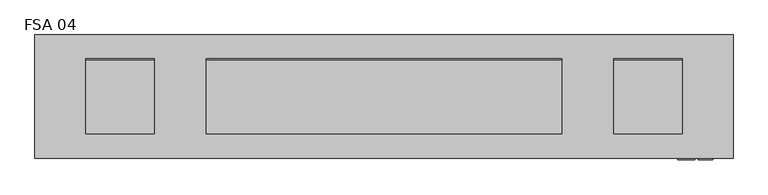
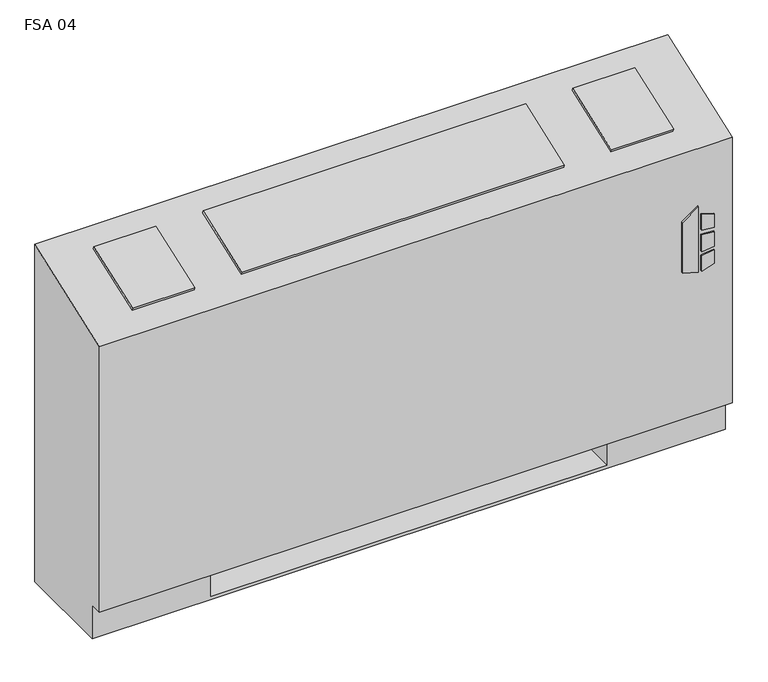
"""IFC4 building model written with IfcOpenShell, lengths in millimetres: proxy geometry, Vertical_Fan_Coil_Unit_-_FSA_-_IEC_-_2-Pipe_TS-FR_LH_2022 : FSA 04."""

from ifc_helpers import new_model, si_unit, point, frame, frame_2d, origin, place, context, project, spatial, polyline, circle_curve, trimmed, segment, composite_curve, outline, extrude, source, transform, mapped, element, save
from ifc_brep_helpers import plane_surface, revolved_surface, advanced_brep


def fsa_04_9fa2f48e(model_context):
    return source(origin(), model_context, "Body", "SolidModel", [
        extrude(outline(polyline([(391.6086829, 696.9868862), (381.6606126, 729.1602728), (523.831537, 729.1602728), (500.8095309, 696.9868862), (391.6086829, 696.9868862)])), frame((0.0, 12.7, 0.0), z_axis=(0.0, 1.0, 0.0), x_axis=(0.0, 0.0, 1.0)), (0.0, 0.0, 1.0), 3.175),
        extrude(outline(polyline([(470.6079683, 735.9186058), (467.4055757, 762.0), (496.6344168, 762.0), (504.6988318, 735.9186058), (470.6079683, 735.9186058)])), frame((0.0, 12.7, 0.0), z_axis=(0.0, 1.0, 0.0), x_axis=(0.0, 0.0, 1.0)), (0.0, 0.0, 1.0), 3.175),
        extrude(outline(polyline([(418.7444414, 762.0), (415.0789404, 735.9186058), (381.6606126, 735.9186058), (390.2948498, 762.0), (418.7444414, 762.0)])), frame((0.0, 12.7, 0.0), z_axis=(0.0, 1.0, 0.0), x_axis=(0.0, 0.0, 1.0)), (0.0, 0.0, 1.0), 3.175),
        extrude(outline(polyline([(458.0596028, 762.0), (460.3414292, 735.9186058), (424.4038806, 735.9186058), (427.1451456, 762.0), (458.0596028, 762.0)])), frame((0.0, 12.7, 0.0), z_axis=(0.0, 1.0, 0.0), x_axis=(0.0, 0.0, 1.0)), (0.0, 0.0, 1.0), 3.175),
        extrude(outline(polyline([(679.45, 223.266), (679.45, 81.534), (558.8, 81.534), (558.8, 223.266), (679.45, 223.266)])), frame((0.0, 0.0, 327.025), z_axis=(0.0, 0.0, 1.0), x_axis=(1.0, 0.0, 0.0)), (0.0, 0.0, 1.0), 260.35),
        extrude(outline(composite_curve([segment(trimmed(circle_curve(frame_2d((-317.5, 130.175)), 9.525), [point((-327.025, 130.175))], [point((-307.975, 130.175))], False, "CARTESIAN"), True, "CONTINUOUS"), segment(trimmed(circle_curve(frame_2d((-317.5, 130.175)), 9.525), [point((-307.975, 130.175))], [point((-327.025, 130.175))], False, "CARTESIAN"), True, "CONTINUOUS")], self_intersect=False)), frame((0.0, 0.0, 101.6), z_axis=(0.0, 0.0, 1.0), x_axis=(1.0, 0.0, 0.0)), (0.0, 0.0, 1.0), 25.4),
        extrude(outline(polyline([(-419.1, 63.5), (-419.1, 196.85), (-254.0, 196.85), (-254.0, 63.5), (-419.1, 63.5)])), frame((0.0, 0.0, 127.0), z_axis=(0.0, 0.0, 1.0), x_axis=(1.0, 0.0, 0.0)), (0.0, 0.0, 1.0), 50.8),
        extrude(outline(polyline([(0.0, -146.0500001), (0.0, 0.0), (127.0, 0.0), (127.0, -146.0500001), (0.0, -146.0500001)])), frame((-401.193, 200.4217127, 714.3418685), z_axis=(0.0, -0.3396444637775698, 0.9405538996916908), x_axis=(1.0, 0.0, 0.0)), (0.0, 0.0, 1.0), 6.35),
        extrude(outline(polyline([(0.0, -146.0500001), (0.0, 0.0), (660.4, 0.0), (660.4, -146.0500001), (0.0, -146.0500001)])), frame((482.6, 63.0538156, 664.7367945), z_axis=(0.0, -0.33964446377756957, 0.9405538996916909), x_axis=(-1.0, 0.0, 0.0)), (0.0, 0.0, 1.0), 6.35),
        extrude(outline(polyline([(0.0, -146.0500001), (0.0, 0.0), (127.0, 0.0), (127.0, -146.0500001), (0.0, -146.0500001)])), frame((705.993, 63.0538156, 664.7367945), z_axis=(0.0, -0.3396444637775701, 0.9405538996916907), x_axis=(-1.0, 0.0, 0.0)), (0.0, 0.0, 1.0), 6.35),
        extrude(outline(composite_curve([segment(trimmed(circle_curve(frame_2d((109.347, 456.819)), 7.9375), [point((109.347, 464.7565))], [point((109.347, 448.8815))], False, "CARTESIAN"), True, "CONTINUOUS"), segment(trimmed(circle_curve(frame_2d((109.347, 456.819)), 7.9375), [point((109.347, 448.8815))], [point((109.347, 464.7565))], False, "CARTESIAN"), True, "CONTINUOUS")], self_intersect=False)), frame((-304.8, 0.0, 0.0), z_axis=(1.0, 0.0, 0.0), x_axis=(0.0, 1.0, 0.0)), (0.0, 0.0, 1.0), 50.8),
        extrude(outline(composite_curve([segment(trimmed(circle_curve(frame_2d((157.4546, 429.4632)), 7.9375), [point((157.4546, 437.4007))], [point((157.4546, 421.5257))], False, "CARTESIAN"), True, "CONTINUOUS"), segment(trimmed(circle_curve(frame_2d((157.4546, 429.4632)), 7.9375), [point((157.4546, 421.5257))], [point((157.4546, 437.4007))], False, "CARTESIAN"), True, "CONTINUOUS")], self_intersect=False)), frame((-304.8, 0.0, 0.0), z_axis=(1.0, 0.0, 0.0), x_axis=(0.0, 1.0, 0.0)), (0.0, 0.0, 1.0), 50.8),
        advanced_brep(
        [(-495.3, 244.475, 0.0), (800.1, 244.475, 0.0), (800.1, 41.275, 0.0), (-495.3, 41.275, 0.0), (-495.3, 244.475, 730.25), (800.1, 244.475, 730.25), (558.8, 244.475, 73.025), (787.4, 244.475, 73.025), (787.4, 244.475, 654.05), (558.8, 244.475, 654.05), (558.8, 244.475, 414.8650565), (587.375, 244.475, 414.8650565), (587.375, 244.475, 385.2349435), (558.8, 244.475, 385.2349435), (558.8, 244.475, 287.3375), (587.375, 244.475, 287.3375), (587.375, 244.475, 258.7625), (558.8, 244.475, 258.7625), (558.8, 244.475, 141.2875), (587.375, 244.475, 141.2875), (587.375, 244.475, 112.7125), (558.8, 244.475, 112.7125), (-254.0, 244.475, 654.05), (-482.6, 244.475, 654.05), (-482.6, 244.475, 73.025), (-254.0, 244.475, 73.025), (-254.0, 244.475, 112.7125), (-282.575, 244.475, 112.7125), (-282.575, 244.475, 141.2875), (-254.0, 244.475, 141.2875), (-254.0, 244.475, 258.7625), (-282.575, 244.475, 258.7625), (-282.575, 244.475, 287.3375), (-254.0, 244.475, 287.3375), (-254.0, 244.475, 385.2349435), (-282.575, 244.475, 385.2349435), (-282.575, 244.475, 414.8650565), (-254.0, 244.475, 414.8650565), (577.0626, 244.475, 127.0), (565.9374, 244.475, 127.0), (577.0626, 244.475, 400.05), (565.9374, 244.475, 400.05), (577.0626, 244.475, 273.05), (565.9374, 244.475, 273.05), (-261.1374, 244.475, 127.0), (-272.2626, 244.475, 127.0), (-261.1374, 244.475, 273.05), (-272.2626, 244.475, 273.05), (-261.1374, 244.475, 400.05), (-272.2626, 244.475, 400.05), (-495.3, 41.275, 73.025), (-495.3, 15.875, 73.025), (-495.3, 15.875, 647.7), (800.1, 15.875, 73.025), (800.1, 15.875, 647.7), (800.1, 41.275, 73.025), (-254.0, 41.275, 73.025), (-254.0, 225.425, 73.025), (558.8, 225.425, 73.025), (558.8, 41.275, 73.025), (558.8, 41.275, 6.35), (-254.0, 41.275, 6.35), (558.8, 41.275, 654.05), (787.4, 41.275, 654.05), (787.4, 41.275, 73.025), (558.8, 41.275, 73.025), (-254.0, 41.275, 654.05), (-254.0, 41.275, 73.025), (-482.6, 41.275, 73.025), (-482.6, 41.275, 654.05), (558.8, 225.425, 73.025), (558.8, 238.125, 112.7125), (558.8, 238.125, 141.2875), (558.8, 238.125, 258.7625), (558.8, 238.125, 287.3375), (558.8, 238.125, 385.2349435), (558.8, 238.125, 414.8650565), (-254.0, 225.425, 73.025), (-254.0, 238.125, 414.8650565), (-254.0, 238.125, 385.2349435), (-254.0, 238.125, 287.3375), (-254.0, 238.125, 258.7625), (-254.0, 238.125, 141.2875), (-254.0, 238.125, 112.7125), (-254.0, 225.425, 6.35), (558.8, 225.425, 6.35), (587.375, 238.125, 112.7125), (587.375, 238.125, 141.2875), (565.9374, 238.125, 127.0), (577.0626, 238.125, 127.0), (587.375, 238.125, 258.7625), (587.375, 238.125, 287.3375), (565.9374, 238.125, 273.05), (577.0626, 238.125, 273.05), (587.375, 238.125, 385.2349435), (587.375, 238.125, 414.8650565), (565.9374, 238.125, 400.05), (577.0626, 238.125, 400.05), (-282.575, 238.125, 141.2875), (-282.575, 238.125, 112.7125), (-272.2626, 238.125, 127.0), (-261.1374, 238.125, 127.0), (-282.575, 238.125, 287.3375), (-282.575, 238.125, 258.7625), (-272.2626, 238.125, 273.05), (-261.1374, 238.125, 273.05), (-282.575, 238.125, 414.8650565), (-282.575, 238.125, 385.2349435), (-272.2626, 238.125, 400.05), (-261.1374, 238.125, 400.05)],
        [
            (0, 1),
            (1, 2),
            (2, 3),
            (3, 0),
            (0, 4),
            (4, 5),
            (5, 1),
            (6, 7),
            (7, 8),
            (8, 9),
            (9, 10),
            (10, 11),
            (11, 12),
            (12, 13),
            (13, 14),
            (14, 15),
            (15, 16),
            (16, 17),
            (17, 18),
            (18, 19),
            (19, 20),
            (20, 21),
            (21, 6),
            (22, 23),
            (23, 24),
            (24, 25),
            (25, 26),
            (26, 27),
            (27, 28),
            (28, 29),
            (29, 30),
            (30, 31),
            (31, 32),
            (32, 33),
            (33, 34),
            (34, 35),
            (35, 36),
            (36, 37),
            (37, 22),
            (38, 39, circle_curve(frame((571.5, 244.475, 127.0), z_axis=(0.0, -1.0, 0.0), x_axis=(-1.0, 0.0, 0.0)), 5.5626)),
            (39, 38, circle_curve(frame((571.5, 244.475, 127.0), z_axis=(0.0, -1.0, 0.0), x_axis=(-1.0, 0.0, 0.0)), 5.5626)),
            (40, 41, circle_curve(frame((571.5, 244.475, 400.05), z_axis=(0.0, -1.0, 0.0), x_axis=(-1.0, 0.0, 0.0)), 5.5626)),
            (41, 40, circle_curve(frame((571.5, 244.475, 400.05), z_axis=(0.0, -1.0, 0.0), x_axis=(-1.0, 0.0, 0.0)), 5.5626)),
            (42, 43, circle_curve(frame((571.5, 244.475, 273.05), z_axis=(0.0, -1.0, 0.0), x_axis=(-1.0, 0.0, 0.0)), 5.5626)),
            (43, 42, circle_curve(frame((571.5, 244.475, 273.05), z_axis=(0.0, -1.0, 0.0), x_axis=(-1.0, 0.0, 0.0)), 5.5626)),
            (44, 45, circle_curve(frame((-266.7, 244.475, 127.0), z_axis=(0.0, -1.0, 0.0), x_axis=(-1.0, 0.0, 0.0)), 5.5626)),
            (45, 44, circle_curve(frame((-266.7, 244.475, 127.0), z_axis=(0.0, -1.0, 0.0), x_axis=(-1.0, 0.0, 0.0)), 5.5626)),
            (46, 47, circle_curve(frame((-266.7, 244.475, 273.05), z_axis=(0.0, -1.0, 0.0), x_axis=(-1.0, 0.0, 0.0)), 5.5626)),
            (47, 46, circle_curve(frame((-266.7, 244.475, 273.05), z_axis=(0.0, -1.0, 0.0), x_axis=(-1.0, 0.0, 0.0)), 5.5626)),
            (48, 49, circle_curve(frame((-266.7, 244.475, 400.05), z_axis=(0.0, -1.0, 0.0), x_axis=(-1.0, 0.0, 0.0)), 5.5626)),
            (49, 48, circle_curve(frame((-266.7, 244.475, 400.05), z_axis=(0.0, -1.0, 0.0), x_axis=(-1.0, 0.0, 0.0)), 5.5626)),
            (3, 50),
            (50, 51),
            (51, 52),
            (52, 4),
            (51, 53),
            (53, 54),
            (54, 52),
            (5, 54),
            (53, 55),
            (55, 2),
            (50, 56),
            (56, 57),
            (57, 58),
            (58, 59),
            (59, 55),
            (59, 60),
            (60, 61),
            (61, 56),
            (62, 63),
            (63, 64),
            (64, 65),
            (65, 62),
            (66, 67),
            (67, 68),
            (68, 69),
            (69, 66),
            (65, 70),
            (70, 6),
            (21, 71),
            (71, 72),
            (72, 18),
            (17, 73),
            (73, 74),
            (74, 14),
            (13, 75),
            (75, 76),
            (76, 10),
            (9, 62),
            (64, 7),
            (63, 8),
            (69, 23),
            (22, 66),
            (68, 24),
            (67, 77),
            (77, 25),
            (37, 78),
            (78, 79),
            (79, 34),
            (33, 80),
            (80, 81),
            (81, 30),
            (29, 82),
            (82, 83),
            (83, 26),
            (57, 84),
            (84, 85),
            (85, 58),
            (85, 60),
            (84, 61),
            (71, 86),
            (86, 87),
            (87, 72),
            (88, 89, circle_curve(frame((571.5, 238.125, 127.0), z_axis=(0.0, 1.0, 0.0), x_axis=(-1.0, 0.0, 0.0)), 5.5626)),
            (89, 88, circle_curve(frame((571.5, 238.125, 127.0), z_axis=(0.0, 1.0, 0.0), x_axis=(-1.0, 0.0, 0.0)), 5.5626)),
            (73, 90),
            (90, 91),
            (91, 74),
            (92, 93, circle_curve(frame((571.5, 238.125, 273.05), z_axis=(0.0, 1.0, 0.0), x_axis=(-1.0, 0.0, 0.0)), 5.5626)),
            (93, 92, circle_curve(frame((571.5, 238.125, 273.05), z_axis=(0.0, 1.0, 0.0), x_axis=(-1.0, 0.0, 0.0)), 5.5626)),
            (75, 94),
            (94, 95),
            (95, 76),
            (96, 97, circle_curve(frame((571.5, 238.125, 400.05), z_axis=(0.0, 1.0, 0.0), x_axis=(-1.0, 0.0, 0.0)), 5.5626)),
            (97, 96, circle_curve(frame((571.5, 238.125, 400.05), z_axis=(0.0, 1.0, 0.0), x_axis=(-1.0, 0.0, 0.0)), 5.5626)),
            (98, 99),
            (99, 83),
            (82, 98),
            (100, 101, circle_curve(frame((-266.7, 238.125, 127.0), z_axis=(0.0, 1.0, 0.0), x_axis=(-1.0, 0.0, 0.0)), 5.5626)),
            (101, 100, circle_curve(frame((-266.7, 238.125, 127.0), z_axis=(0.0, 1.0, 0.0), x_axis=(-1.0, 0.0, 0.0)), 5.5626)),
            (102, 103),
            (103, 81),
            (80, 102),
            (104, 105, circle_curve(frame((-266.7, 238.125, 273.05), z_axis=(0.0, 1.0, 0.0), x_axis=(-1.0, 0.0, 0.0)), 5.5626)),
            (105, 104, circle_curve(frame((-266.7, 238.125, 273.05), z_axis=(0.0, 1.0, 0.0), x_axis=(-1.0, 0.0, 0.0)), 5.5626)),
            (106, 107),
            (107, 79),
            (78, 106),
            (108, 109, circle_curve(frame((-266.7, 238.125, 400.05), z_axis=(0.0, 1.0, 0.0), x_axis=(-1.0, 0.0, 0.0)), 5.5626)),
            (109, 108, circle_curve(frame((-266.7, 238.125, 400.05), z_axis=(0.0, 1.0, 0.0), x_axis=(-1.0, 0.0, 0.0)), 5.5626)),
            (87, 19),
            (86, 20),
            (91, 15),
            (90, 16),
            (95, 11),
            (94, 12),
            (28, 98),
            (99, 27),
            (32, 102),
            (103, 31),
            (36, 106),
            (107, 35),
            (88, 39),
            (38, 89),
            (96, 41),
            (40, 97),
            (92, 43),
            (42, 93),
            (100, 45),
            (44, 101),
            (104, 47),
            (46, 105),
            (108, 49),
            (48, 109),
        ],
        [
            plane_surface(frame((-495.3, 244.475, 0.0), z_axis=(0.0, 0.0, -1.0), x_axis=(1.0, 0.0, 0.0))),
            plane_surface(frame((800.1, 244.475, 730.25), z_axis=(0.0, 1.0, 0.0), x_axis=(0.0, 0.0, -1.0))),
            plane_surface(frame((-495.3, 244.475, 730.25), z_axis=(-1.0, 0.0, 0.0), x_axis=(0.0, 0.0, -1.0))),
            plane_surface(frame((-495.3, 15.875, 730.25), z_axis=(0.0, -1.0, 0.0), x_axis=(0.0, 0.0, -1.0))),
            plane_surface(frame((800.1, 15.875, 730.25), z_axis=(1.0, 0.0, 0.0), x_axis=(0.0, 0.0, -1.0))),
            plane_surface(frame((-495.3, 15.875, 73.025), z_axis=(0.0, 0.0, -1.0), x_axis=(1.0, 0.0, 0.0))),
            plane_surface(frame((-495.3, 41.275, 73.025), z_axis=(0.0, -1.0, 0.0), x_axis=(1.0, 0.0, 0.0))),
            plane_surface(frame((558.8, 41.275, 654.05), z_axis=(0.0, 1.0, 0.0), x_axis=(0.0, 0.0, -1.0))),
            plane_surface(frame((558.8, 41.275, 654.05), z_axis=(1.0, 0.0, 0.0), x_axis=(0.0, 1.0, 0.0))),
            plane_surface(frame((558.8, 41.275, 73.025), z_axis=(0.0, 0.0, 1.0), x_axis=(0.0, 1.0, 0.0))),
            plane_surface(frame((787.4, 41.275, 73.025), z_axis=(-1.0, 0.0, 0.0), x_axis=(0.0, 1.0, 0.0))),
            plane_surface(frame((787.4, 41.275, 654.05), z_axis=(0.0, 0.0, -1.0), x_axis=(0.0, 1.0, 0.0))),
            plane_surface(frame((-254.0, 41.275, 654.05), z_axis=(0.0, 0.0, -1.0), x_axis=(0.0, 1.0, 0.0))),
            plane_surface(frame((-482.6, 41.275, 654.05), z_axis=(1.0, 0.0, 0.0), x_axis=(0.0, 1.0, 0.0))),
            plane_surface(frame((-482.6, 41.275, 73.025), z_axis=(0.0, 0.0, 1.0), x_axis=(0.0, 1.0, 0.0))),
            plane_surface(frame((-254.0, 41.275, 73.025), z_axis=(-1.0, 0.0, 0.0), x_axis=(0.0, 1.0, 0.0))),
            plane_surface(frame((558.8, 225.425, 73.025), z_axis=(0.0, -1.0, 0.0), x_axis=(0.0, 0.0, -1.0))),
            plane_surface(frame((558.8, 225.425, 73.025), z_axis=(-1.0, 0.0, 0.0), x_axis=(0.0, -1.0, 0.0))),
            plane_surface(frame((558.8, 225.425, 6.35), z_axis=(0.0, 0.0, 1.0), x_axis=(0.0, -1.0, 0.0))),
            plane_surface(frame((-254.0, 225.425, 6.35), z_axis=(1.0, 0.0, 0.0), x_axis=(0.0, -1.0, 0.0))),
            plane_surface(frame((587.375, 238.125, 141.2875), z_axis=(0.0, -1.0, 0.0), x_axis=(-1.0, 0.0, 0.0))),
            plane_surface(frame((558.8, 244.475, 141.2875), z_axis=(0.0, 0.0, 1.0), x_axis=(0.0, -1.0, 0.0))),
            plane_surface(frame((587.375, 244.475, 141.2875), z_axis=(1.0, 0.0, 0.0), x_axis=(0.0, -1.0, 0.0))),
            plane_surface(frame((587.375, 244.475, 112.7125), z_axis=(0.0, 0.0, -1.0), x_axis=(0.0, -1.0, 0.0))),
            plane_surface(frame((558.8, 244.475, 287.3375), z_axis=(0.0, 0.0, 1.0), x_axis=(0.0, -1.0, 0.0))),
            plane_surface(frame((587.375, 244.475, 287.3375), z_axis=(1.0, 0.0, 0.0), x_axis=(0.0, -1.0, 0.0))),
            plane_surface(frame((587.375, 244.475, 258.7625), z_axis=(0.0, 0.0, -1.0), x_axis=(0.0, -1.0, 0.0))),
            plane_surface(frame((558.8, 244.475, 414.8650565), z_axis=(0.0, 0.0, 1.0), x_axis=(0.0, -1.0, 0.0))),
            plane_surface(frame((587.375, 244.475, 414.8650565), z_axis=(1.0, 0.0, 0.0), x_axis=(0.0, -1.0, 0.0))),
            plane_surface(frame((587.375, 244.475, 385.2349435), z_axis=(0.0, 0.0, -1.0), x_axis=(0.0, -1.0, 0.0))),
            plane_surface(frame((-282.575, 244.475, 141.2875), z_axis=(0.0, 0.0, 1.0), x_axis=(0.0, -1.0, 0.0))),
            plane_surface(frame((-254.0, 244.475, 112.7125), z_axis=(0.0, 0.0, -1.0), x_axis=(0.0, -1.0, 0.0))),
            plane_surface(frame((-282.575, 244.475, 112.7125), z_axis=(-1.0, 0.0, 0.0), x_axis=(0.0, -1.0, 0.0))),
            plane_surface(frame((-282.575, 244.475, 287.3375), z_axis=(0.0, 0.0, 1.0), x_axis=(0.0, -1.0, 0.0))),
            plane_surface(frame((-254.0, 244.475, 258.7625), z_axis=(0.0, 0.0, -1.0), x_axis=(0.0, -1.0, 0.0))),
            plane_surface(frame((-282.575, 244.475, 258.7625), z_axis=(-1.0, 0.0, 0.0), x_axis=(0.0, -1.0, 0.0))),
            plane_surface(frame((-282.575, 244.475, 414.8650565), z_axis=(0.0, 0.0, 1.0), x_axis=(0.0, -1.0, 0.0))),
            plane_surface(frame((-254.0, 244.475, 385.2349435), z_axis=(0.0, 0.0, -1.0), x_axis=(0.0, -1.0, 0.0))),
            plane_surface(frame((-282.575, 244.475, 385.2349435), z_axis=(-1.0, 0.0, 0.0), x_axis=(0.0, -1.0, 0.0))),
            revolved_surface(polyline([(565.9374, 238.125, 127.0), (565.9374, 244.475, 127.0)]), (571.5, 244.475, 127.0), (0.0, -1.0, 0.0)),
            revolved_surface(polyline([(565.9374, 238.125, 400.05), (565.9374, 244.475, 400.05)]), (571.5, 244.475, 400.05), (0.0, -1.0, 0.0)),
            revolved_surface(polyline([(565.9374, 238.125, 273.05), (565.9374, 244.475, 273.05)]), (571.5, 244.475, 273.05), (0.0, -1.0, 0.0)),
            revolved_surface(polyline([(-272.26259999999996, 238.125, 127.0), (-272.26259999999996, 244.475, 127.0)]), (-266.7, 244.475, 127.0), (0.0, -1.0, 0.0)),
            revolved_surface(polyline([(-272.26259999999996, 238.125, 273.05), (-272.26259999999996, 244.475, 273.05)]), (-266.7, 244.475, 273.05), (0.0, -1.0, 0.0)),
            revolved_surface(polyline([(-272.26259999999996, 238.125, 400.05), (-272.26259999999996, 244.475, 400.05)]), (-266.7, 244.475, 400.05), (0.0, -1.0, 0.0)),
            plane_surface(frame((-495.3, 244.475, 730.25), z_axis=(0.0, -0.33964446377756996, 0.9405538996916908), x_axis=(1.0, 0.0, 0.0))),
        ],
        [
            (0, [[1, 2, 3, 4]]),
            (1, [[-1, 5, 6, 7], [8, 9, 10, 11, 12, 13, 14, 15, 16, 17, 18, 19, 20, 21, 22, 23], [24, 25, 26, 27, 28, 29, 30, 31, 32, 33, 34, 35, 36, 37, 38, 39], [40, 41], [42, 43], [44, 45], [46, 47], [48, 49], [50, 51]]),
            (2, [[-5, -4, 52, 53, 54, 55]]),
            (3, [[56, 57, 58, -54]]),
            (4, [[-7, 59, -57, 60, 61, -2]]),
            (5, [[-53, 62, 63, 64, 65, 66, -60, -56]]),
            (6, [[-3, -61, -66, 67, 68, 69, -62, -52]]),
            (7, [[70, 71, 72, 73]]),
            (7, [[74, 75, 76, 77]]),
            (8, [[-73, 78, 79, -23, 80, 81, 82, -19, 83, 84, 85, -15, 86, 87, 88, -11, 89]]),
            (9, [[-72, 90, -8, -79, -78]]),
            (10, [[-71, 91, -9, -90]]),
            (11, [[-70, -89, -10, -91]]),
            (12, [[-77, 92, -24, 93]]),
            (13, [[-76, 94, -25, -92]]),
            (14, [[-75, 95, 96, -26, -94]]),
            (15, [[-74, -93, -39, 97, 98, 99, -35, 100, 101, 102, -31, 103, 104, 105, -27, -96, -95]]),
            (16, [[-64, 106, 107, 108]]),
            (17, [[-108, 109, -67, -65]]),
            (18, [[-107, 110, -68, -109]]),
            (19, [[-106, -63, -69, -110]]),
            (20, [[111, 112, 113, -81], [114, 115]]),
            (20, [[116, 117, 118, -84], [119, 120]]),
            (20, [[121, 122, 123, -87], [124, 125]]),
            (20, [[126, 127, -104, 128], [129, 130]]),
            (20, [[131, 132, -101, 133], [134, 135]]),
            (20, [[136, 137, -98, 138], [139, 140]]),
            (21, [[-113, 141, -20, -82]]),
            (22, [[-112, 142, -21, -141]]),
            (23, [[-111, -80, -22, -142]]),
            (24, [[-118, 143, -16, -85]]),
            (25, [[-117, 144, -17, -143]]),
            (26, [[-116, -83, -18, -144]]),
            (27, [[-123, 145, -12, -88]]),
            (28, [[-122, 146, -13, -145]]),
            (29, [[-121, -86, -14, -146]]),
            (30, [[-128, -103, -30, 147]]),
            (31, [[-127, 148, -28, -105]]),
            (32, [[-126, -147, -29, -148]]),
            (33, [[-133, -100, -34, 149]]),
            (34, [[-132, 150, -32, -102]]),
            (35, [[-131, -149, -33, -150]]),
            (36, [[-138, -97, -38, 151]]),
            (37, [[-137, 152, -36, -99]]),
            (38, [[-136, -151, -37, -152]]),
            (39, [[153, -40, 154, -114]]),
            (39, [[-153, -115, -154, -41]]),
            (40, [[155, -42, 156, -124]]),
            (40, [[-155, -125, -156, -43]]),
            (41, [[157, -44, 158, -119]]),
            (41, [[-157, -120, -158, -45]]),
            (42, [[159, -46, 160, -129]]),
            (42, [[-159, -130, -160, -47]]),
            (43, [[161, -48, 162, -134]]),
            (43, [[-161, -135, -162, -49]]),
            (44, [[163, -50, 164, -139]]),
            (44, [[-163, -140, -164, -51]]),
            (45, [[-6, -55, -58, -59]]),
        ],
    ),
    ])


if __name__ == "__main__":
    model = new_model("IFC4")
    model_context = context("Model", 3, world=origin())
    ifc_project = project(units=[si_unit("LENGTHUNIT", "METRE", prefix="MILLI")], contexts=[model_context])
    site = spatial("IfcSite", under=ifc_project)
    building = spatial("IfcBuilding", under=site)
    placement = place(None, origin())
    fsa_04_shape = fsa_04_9fa2f48e(model_context)
    element("IfcBuildingElementProxy", 1, Name="Vertical_Fan_Coil_Unit_-_FSA_-_IEC_-_2-Pipe_TS-FR_LH_2022 : FSA 04", ObjectType="Vertical_Fan_Coil_Unit_-_FSA_-_IEC_-_2-Pipe_TS-FR_LH_2022 : FSA 04", at=placement, inside=building, context=model_context, shape_type="MappedRepresentation", body=[
        mapped(fsa_04_shape, transform((0.0, 0.0, 0.0), x_axis=(1.0, 0.0, 0.0), y_axis=(0.0, 1.0, 0.0), z_axis=(0.0, 0.0, 1.0))),
    ])
    save(model, "model.ifc")
